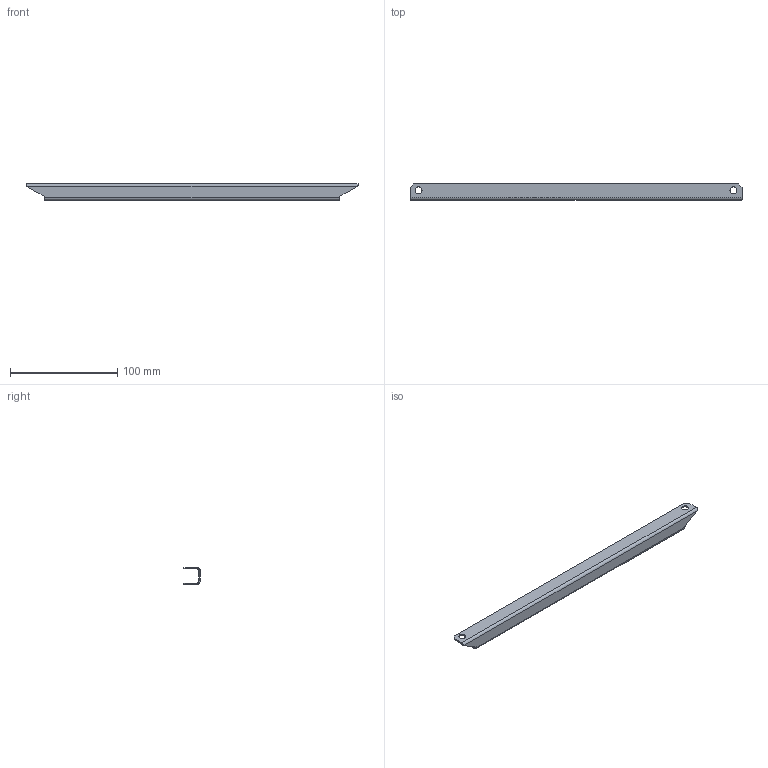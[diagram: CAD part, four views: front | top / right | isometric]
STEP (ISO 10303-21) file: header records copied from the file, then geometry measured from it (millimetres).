
FILE_DESCRIPTION (( 'STEP AP214' ), '1' );
FILE_NAME ('VB 40 Ðåéêà.STEP', '2024-02-19T07:25:13', ( '' ), ( '' ), 'SwSTEP 2.0', 'SolidWorks 2022', '' );
FILE_SCHEMA (( 'AUTOMOTIVE_DESIGN' ));
Length unit declared in the file: millimetre
Products named in the file (1): VB 40 Рейка
Bounding box: 310 x 15 x 15.5 mm (x, y, z)
Volume: 14291.3 mm3; surface area: 24850.8 mm2
Topology: 1 solids, 1 shells, 52 faces, 150 edges, 100 vertices
Faces by surface type: cylinder 34, plane 18
Entity records: 1856 total; most frequent: CARTESIAN_POINT 339, DIRECTION 320, ORIENTED_EDGE 300, EDGE_CURVE 150, AXIS2_PLACEMENT_3D 121, VERTEX_POINT 100, VECTOR 78, EDGE_LOOP 78
